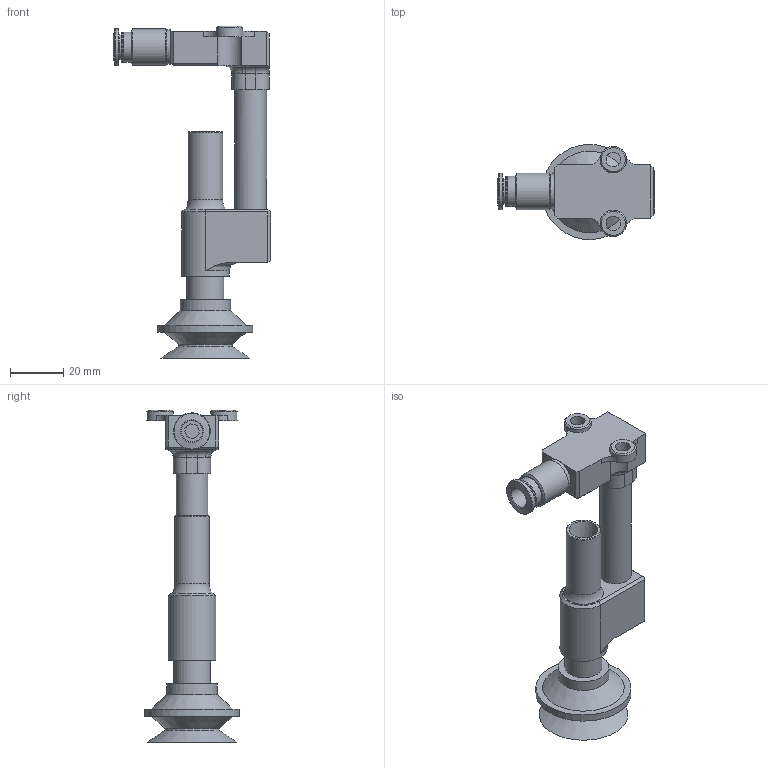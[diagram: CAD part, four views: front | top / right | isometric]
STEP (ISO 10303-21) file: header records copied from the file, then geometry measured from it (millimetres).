
FILE_DESCRIPTION(/* description */ ('Unknown'),/* implementation_level */ '2;1');
FILE_NAME(/* name */ 'HDHF Dm extern mit Tülle und 33er Sauger',/* time_stamp */ '2025-06-12T10:30:21+02:00',/* author */ ('S.Brockfeld'),/* organization */ ('DIL e.V.'),/* preprocessor_version */ 'ST-DEVELOPER v18.104',/* originating_system */ 'Solid Edge',/* authorisation */ 'Unknown');
FILE_SCHEMA (('AUTOMOTIVE_DESIGN {1 0 10303 214 3 1 1}'));
Length unit declared in the file: millimetre
Products named in the file (1): HDHF Dm extern mit Tülle und 33er Sauger3
Bounding box: 59.1 x 35.78 x 124.97 mm (x, y, z)
Volume: 37698.2 mm3; surface area: 17956.7 mm2
Topology: 1 solids, 1 shells, 167 faces, 392 edges, 245 vertices
Faces by surface type: plane 79, cylinder 53, cone 17, torus 14, bspline 4
Full cylindrical faces by diameter (mm): 5.5 x2, 8 x1, 8.566 x2, 9.4 x1, 10 x2, 11.4 x2, 11.5 x1, 12 x1, 12.4 x2, 13 x2, 13.7 x1, 13.8 x1, 13.927 x1, 15 x1, 18 x1, 19.057 x1, 28.8 x1, 35.8 x1
Entity records: 8945 total; most frequent: CARTESIAN_POINT 4093, DIRECTION 792, ORIENTED_EDGE 678, EDGE_CURVE 339, AXIS2_PLACEMENT_3D 324, VERTEX_POINT 236, EDGE_LOOP 233, FACE_BOUND 233
